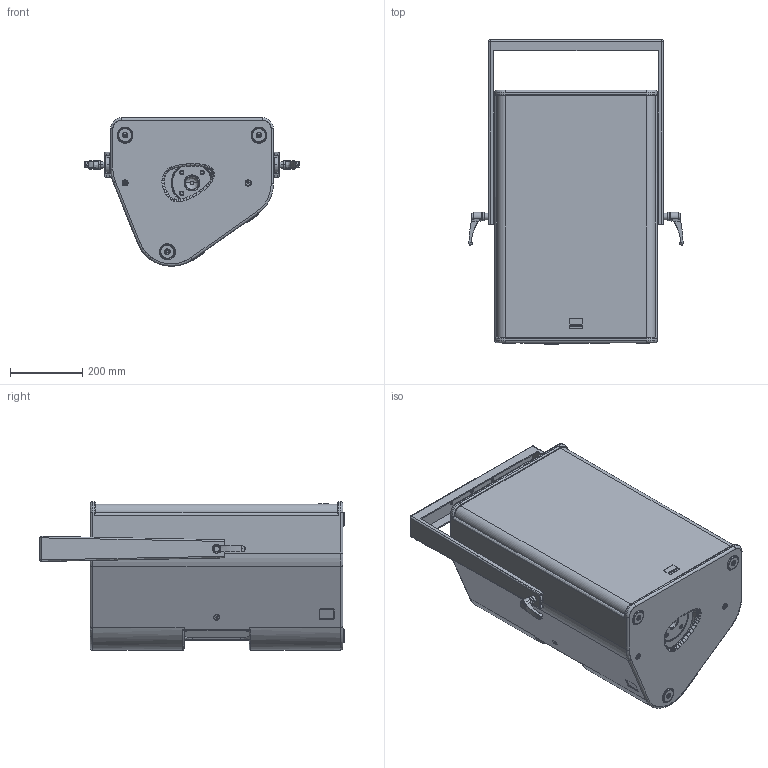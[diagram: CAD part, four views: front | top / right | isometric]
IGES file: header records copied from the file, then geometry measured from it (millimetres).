
Start section: SolidWorks IGES file using analytic representation for surfaces
Global section: file name: C:\Dokumente und Einstellungen\PC_Fabian\Desktop\TS-Serie\Seeburg_TSM15_Bracket_ver.IGS; native system: SolidWorks 2009; preprocessor: SolidWorks 2009; author: PC_Fabian; date: 121017.134600; units: millimetre
Bounding box: 591.25 x 840 x 409.97 mm (x, y, z)
Surface area: 3175001.1 mm2 (no closed solid volume)
Topology: 0 solids, 0 shells, 1226 faces, 16246 edges, 16242 vertices
Faces by surface type: revolution 689, bspline 537
